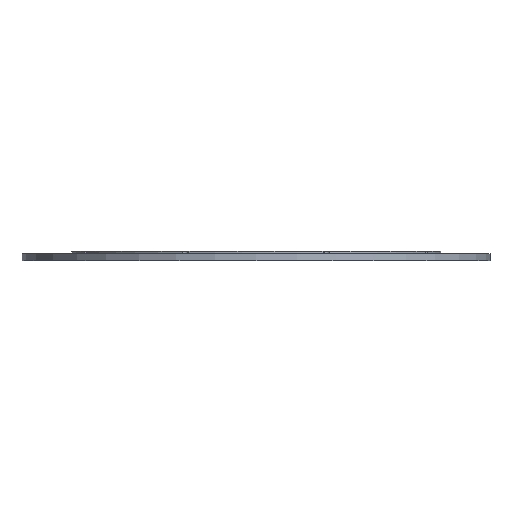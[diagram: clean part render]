
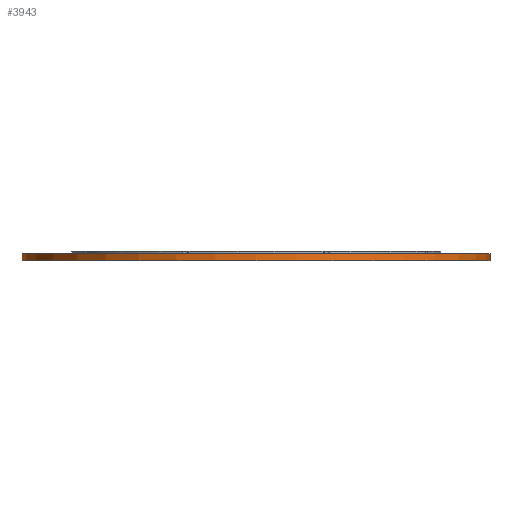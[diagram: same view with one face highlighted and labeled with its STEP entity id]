
A CAD part, front view. The second image highlights one B-rep face of the part: STEP entity #3943.
In plain terms, the highlighted cylindrical face has radius 100 mm (diameter 200 mm), a partial arc.
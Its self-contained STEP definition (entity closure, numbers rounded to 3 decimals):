
#55 = DIRECTION ( 'NONE',  ( 0., 0., 1. ) ) ;
#211 = VECTOR ( 'NONE', #3547, 1000. ) ;
#444 = DIRECTION ( 'NONE',  ( 1., 0., 0. ) ) ;
#564 = LINE ( 'NONE', #1004, #4197 ) ;
#590 = DIRECTION ( 'NONE',  ( 0., 0., -1. ) ) ;
#614 = CARTESIAN_POINT ( 'NONE',  ( 100., 0., 0. ) ) ;
#862 = DIRECTION ( 'NONE',  ( 0., 0., 1. ) ) ;
#902 = ORIENTED_EDGE ( 'NONE', *, *, #4844, .T. ) ;
#919 = ORIENTED_EDGE ( 'NONE', *, *, #1053, .T. ) ;
#989 = VERTEX_POINT ( 'NONE', #1585 ) ;
#1004 = CARTESIAN_POINT ( 'NONE',  ( 100., 0., 4. ) ) ;
#1053 = EDGE_CURVE ( 'NONE', #989, #3389, #4367, .T. ) ;
#1306 = CARTESIAN_POINT ( 'NONE',  ( -100., 0., 0. ) ) ;
#1328 = ORIENTED_EDGE ( 'NONE', *, *, #4513, .F. ) ;
#1585 = CARTESIAN_POINT ( 'NONE',  ( -100., 0., 3. ) ) ;
#1846 = FACE_OUTER_BOUND ( 'NONE', #4046, .T. ) ;
#2038 = DIRECTION ( 'NONE',  ( 1., 0., 0. ) ) ;
#2281 = DIRECTION ( 'NONE',  ( -1., 0., 0. ) ) ;
#2301 = ORIENTED_EDGE ( 'NONE', *, *, #2527, .F. ) ;
#2335 = AXIS2_PLACEMENT_3D ( 'NONE', #3595, #55, #2038 ) ;
#2516 = VERTEX_POINT ( 'NONE', #2576 ) ;
#2527 = EDGE_CURVE ( 'NONE', #2516, #2731, #564, .T. ) ;
#2576 = CARTESIAN_POINT ( 'NONE',  ( 100., 0., 3. ) ) ;
#2638 = CYLINDRICAL_SURFACE ( 'NONE', #4386, 100. ) ;
#2731 = VERTEX_POINT ( 'NONE', #614 ) ;
#3254 = CARTESIAN_POINT ( 'NONE',  ( -100., 0., 4. ) ) ;
#3389 = VERTEX_POINT ( 'NONE', #1306 ) ;
#3547 = DIRECTION ( 'NONE',  ( 0., 0., -1. ) ) ;
#3595 = CARTESIAN_POINT ( 'NONE',  ( 0., 0., 3. ) ) ;
#3943 = ADVANCED_FACE ( 'NONE', ( #1846 ), #2638, .T. ) ;
#4046 = EDGE_LOOP ( 'NONE', ( #2301, #1328, #919, #902 ) ) ;
#4197 = VECTOR ( 'NONE', #590, 1000. ) ;
#4219 = DIRECTION ( 'NONE',  ( 0., 0., -1. ) ) ;
#4231 = AXIS2_PLACEMENT_3D ( 'NONE', #4637, #862, #444 ) ;
#4367 = LINE ( 'NONE', #3254, #211 ) ;
#4386 = AXIS2_PLACEMENT_3D ( 'NONE', #4985, #4219, #2281 ) ;
#4513 = EDGE_CURVE ( 'NONE', #989, #2516, #4559, .T. ) ;
#4559 = CIRCLE ( 'NONE', #2335, 100. ) ;
#4637 = CARTESIAN_POINT ( 'NONE',  ( 0., 0., 0. ) ) ;
#4802 = CIRCLE ( 'NONE', #4231, 100. ) ;
#4844 = EDGE_CURVE ( 'NONE', #3389, #2731, #4802, .T. ) ;
#4985 = CARTESIAN_POINT ( 'NONE',  ( 0., 0., 4. ) ) ;
